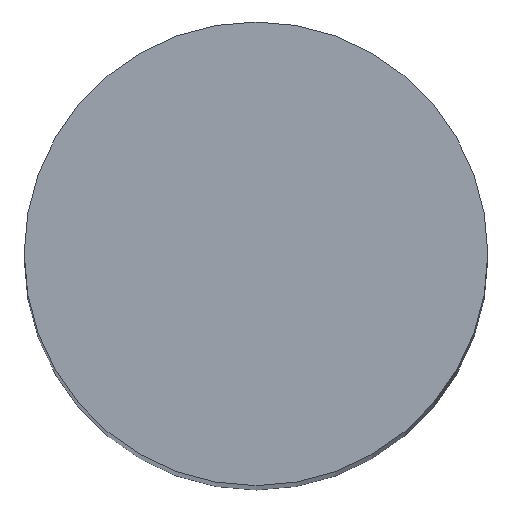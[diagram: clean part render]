
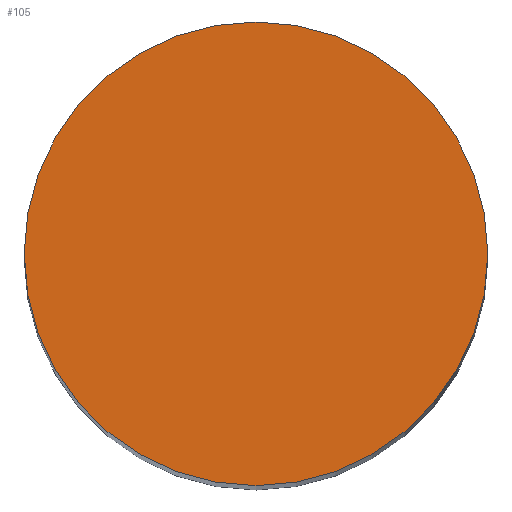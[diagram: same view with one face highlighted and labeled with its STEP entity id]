
A CAD part, top view. The second image highlights one B-rep face of the part: STEP entity #105.
In plain terms, the highlighted planar face has unit normal (0, 0, 1).
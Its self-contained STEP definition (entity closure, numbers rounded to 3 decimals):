
#21 = EDGE_CURVE('',#22,#22,#24,.T.);
#22 = VERTEX_POINT('',#23);
#23 = CARTESIAN_POINT('',(-489.,120.,0.));
#24 = SURFACE_CURVE('',#25,(#30,#42),.PCURVE_S1.);
#25 = CIRCLE('',#26,6.);
#26 = AXIS2_PLACEMENT_3D('',#27,#28,#29);
#27 = CARTESIAN_POINT('',(-495.,120.,0.));
#28 = DIRECTION('',(0.,0.,1.));
#29 = DIRECTION('',(1.,0.,-0.));
#30 = PCURVE('',#31,#36);
#31 = CYLINDRICAL_SURFACE('',#32,6.);
#32 = AXIS2_PLACEMENT_3D('',#33,#34,#35);
#33 = CARTESIAN_POINT('',(-495.,120.,-65.));
#34 = DIRECTION('',(0.,0.,1.));
#35 = DIRECTION('',(1.,0.,-0.));
#36 = DEFINITIONAL_REPRESENTATION('',(#37),#41);
#37 = LINE('',#38,#39);
#38 = CARTESIAN_POINT('',(0.,65.));
#39 = VECTOR('',#40,1.);
#40 = DIRECTION('',(1.,0.));
#41 = ( GEOMETRIC_REPRESENTATION_CONTEXT(2) 
PARAMETRIC_REPRESENTATION_CONTEXT() REPRESENTATION_CONTEXT('2D SPACE',''
  ) );
#42 = PCURVE('',#43,#48);
#43 = PLANE('',#44);
#44 = AXIS2_PLACEMENT_3D('',#45,#46,#47);
#45 = CARTESIAN_POINT('',(-495.,120.,0.));
#46 = DIRECTION('',(0.,0.,1.));
#47 = DIRECTION('',(1.,0.,-0.));
#48 = DEFINITIONAL_REPRESENTATION('',(#49),#53);
#49 = CIRCLE('',#50,6.);
#50 = AXIS2_PLACEMENT_2D('',#51,#52);
#51 = CARTESIAN_POINT('',(0.,0.));
#52 = DIRECTION('',(1.,0.));
#53 = ( GEOMETRIC_REPRESENTATION_CONTEXT(2) 
PARAMETRIC_REPRESENTATION_CONTEXT() REPRESENTATION_CONTEXT('2D SPACE',''
  ) );
#105 = ADVANCED_FACE('',(#106),#43,.T.);
#106 = FACE_BOUND('',#107,.T.);
#107 = EDGE_LOOP('',(#108));
#108 = ORIENTED_EDGE('',*,*,#21,.T.);
